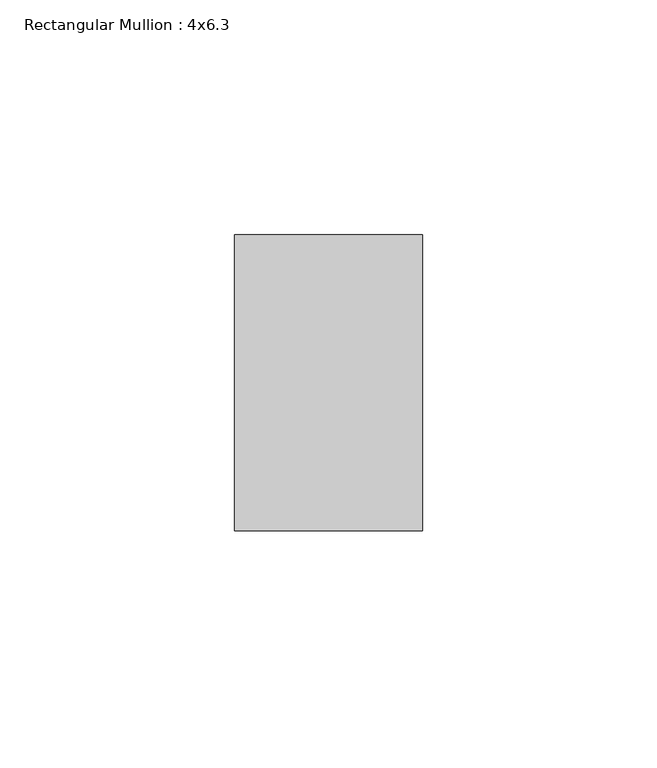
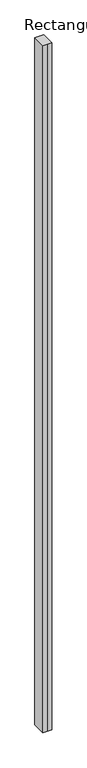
"""IFC4 building model written with IfcOpenShell, lengths in millimetres: member geometry, Rectangular Mullion : 4x6.3."""

from ifc_helpers import new_model, si_unit, frame, origin, place, context, project, spatial, polyline, outline, extrude, source, transform, mapped, element, save


def rectangular_mullion_4x6_3_d404f1bf(model_context):
    return source(origin(), model_context, "Body", "SweptSolid", [
        extrude(outline(polyline([(-20.0, 20.0), (-20.0, 83.0), (20.0, 83.0), (20.0, 20.0), (0.0, 20.0), (-20.0, 20.0)])), frame((0.0, 0.0, -3316.4276416), z_axis=(0.0, 0.0, 1.0), x_axis=(1.0, 0.0, 0.0)), (0.0, 0.0, 1.0), 3316.4276416),
    ])


if __name__ == "__main__":
    model = new_model("IFC4")
    model_context = context("Model", 3, world=origin())
    ifc_project = project(units=[si_unit("LENGTHUNIT", "METRE", prefix="MILLI")], contexts=[model_context])
    site = spatial("IfcSite", under=ifc_project)
    building = spatial("IfcBuilding", under=site)
    placement = place(None, origin())
    rectangular_mullion_4x6_3_shape = rectangular_mullion_4x6_3_d404f1bf(model_context)
    element("IfcMember", 1, ObjectType="Rectangular Mullion : 4x6.3", at=placement, inside=building, context=model_context, shape_type="MappedRepresentation", body=[
        mapped(rectangular_mullion_4x6_3_shape, transform((0.0, 0.0, 0.0), x_axis=(1.0, 0.0, 0.0), y_axis=(0.0, 1.0, 0.0), z_axis=(0.0, 0.0, 1.0))),
    ])
    save(model, "model.ifc")
